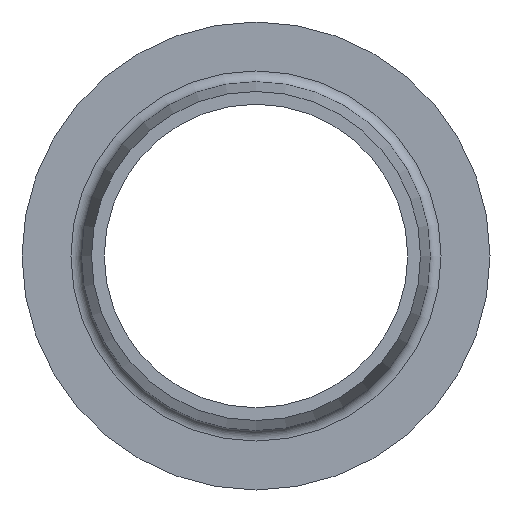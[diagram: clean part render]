
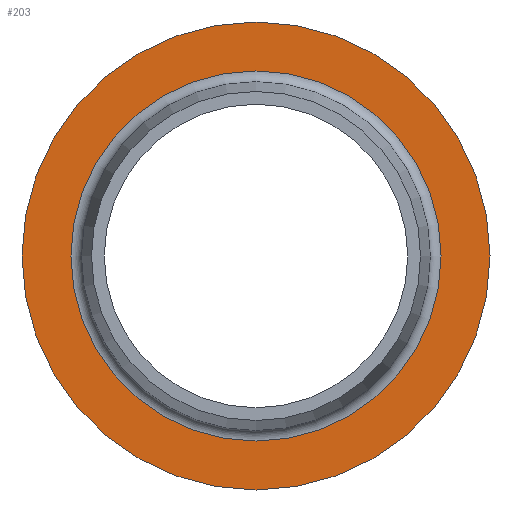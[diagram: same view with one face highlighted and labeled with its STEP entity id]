
A CAD part, left-side view. The second image highlights one B-rep face of the part: STEP entity #203.
In plain terms, the highlighted planar face has unit normal (-1, 0, 0).
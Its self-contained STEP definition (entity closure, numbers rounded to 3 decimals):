
#12=PLANE($,#227);
#29=FACE_BOUND($,#67,.T.);
#50=FACE_OUTER_BOUND($,#66,.T.);
#66=EDGE_LOOP($,(#151));
#67=EDGE_LOOP($,(#152));
#97=CIRCLE($,#226,50.618);
#98=CIRCLE($,#228,64.);
#114=VERTEX_POINT($,#334);
#115=VERTEX_POINT($,#337);
#131=EDGE_CURVE($,#114,#114,#97,.T.);
#132=EDGE_CURVE($,#115,#115,#98,.T.);
#151=ORIENTED_EDGE($,*,*,#132,.F.);
#152=ORIENTED_EDGE($,*,*,#131,.T.);
#203=ADVANCED_FACE($,(#50,#29),#12,.T.);
#226=AXIS2_PLACEMENT_3D($,#335,#268,#269);
#227=AXIS2_PLACEMENT_3D($,#336,#270,#271);
#228=AXIS2_PLACEMENT_3D($,#338,#272,#273);
#268=DIRECTION('center_axis',(1.,0.,0.));
#269=DIRECTION('ref_axis',(0.,1.,0.));
#270=DIRECTION('center_axis',(-1.,0.,0.));
#271=DIRECTION('ref_axis',(0.,0.,1.));
#272=DIRECTION('center_axis',(1.,0.,0.));
#273=DIRECTION('ref_axis',(0.,1.,0.));
#334=CARTESIAN_POINT('',(59.,50.618,0.));
#335=CARTESIAN_POINT('Origin',(59.,0.,0.));
#336=CARTESIAN_POINT('Origin',(59.,57.309,0.));
#337=CARTESIAN_POINT('',(59.,64.,0.));
#338=CARTESIAN_POINT('Origin',(59.,0.,0.));
